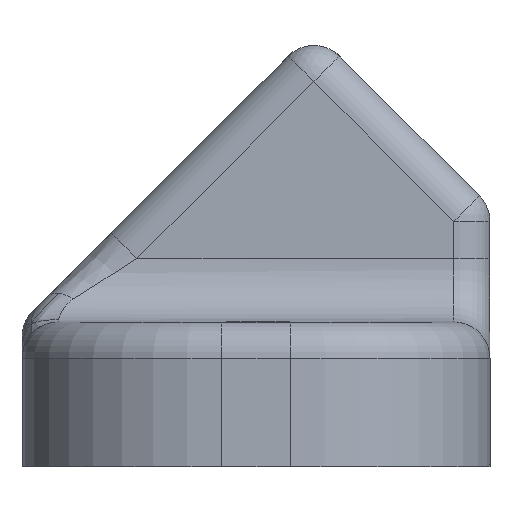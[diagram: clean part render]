
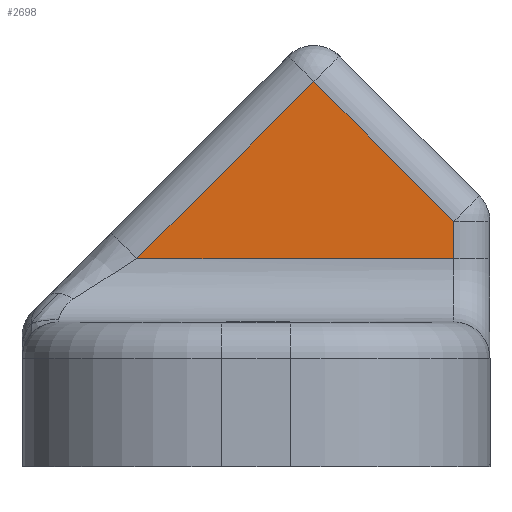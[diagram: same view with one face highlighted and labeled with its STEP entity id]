
A CAD part, front view. The second image highlights one B-rep face of the part: STEP entity #2698.
In plain terms, the highlighted planar face has unit normal (0, -1, 0).
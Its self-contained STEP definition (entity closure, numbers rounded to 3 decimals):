
#177=LINE('',#5530,#401);
#181=LINE('',#5749,#405);
#188=LINE('',#5802,#412);
#192=LINE('',#5812,#416);
#401=VECTOR('',#3364,10.);
#405=VECTOR('',#3380,10.);
#412=VECTOR('',#3423,10.);
#416=VECTOR('',#3435,10.);
#576=PLANE('',#2940);
#690=FACE_OUTER_BOUND('',#850,.T.);
#850=EDGE_LOOP('',(#2166,#2167,#2168,#2169));
#1227=VERTEX_POINT('',#5527);
#1228=VERTEX_POINT('',#5529);
#1232=VERTEX_POINT('',#5747);
#1239=VERTEX_POINT('',#5798);
#1524=EDGE_CURVE('',#1227,#1228,#177,.T.);
#1533=EDGE_CURVE('',#1232,#1227,#181,.T.);
#1551=EDGE_CURVE('',#1228,#1239,#188,.T.);
#1557=EDGE_CURVE('',#1239,#1232,#192,.T.);
#2166=ORIENTED_EDGE('',*,*,#1551,.F.);
#2167=ORIENTED_EDGE('',*,*,#1524,.F.);
#2168=ORIENTED_EDGE('',*,*,#1533,.F.);
#2169=ORIENTED_EDGE('',*,*,#1557,.F.);
#2698=ADVANCED_FACE('',(#690),#576,.T.);
#2940=AXIS2_PLACEMENT_3D('',#5851,#3490,#3491);
#3364=DIRECTION('',(-1.,0.,0.));
#3380=DIRECTION('',(0.,0.,-1.));
#3423=DIRECTION('',(0.707,0.,0.707));
#3435=DIRECTION('',(0.707,0.,-0.707));
#3490=DIRECTION('center_axis',(0.,-1.,0.));
#3491=DIRECTION('ref_axis',(0.,0.,-1.));
#5527=CARTESIAN_POINT('',(14.784,-10.,11.458));
#5529=CARTESIAN_POINT('',(-2.684,-10.,11.458));
#5530=CARTESIAN_POINT('',(10.335,-10.,11.458));
#5747=CARTESIAN_POINT('',(14.784,-10.,13.501));
#5749=CARTESIAN_POINT('',(14.784,-10.,13.175));
#5798=CARTESIAN_POINT('',(7.071,-10.,21.213));
#5802=CARTESIAN_POINT('',(-3.358,-10.,10.784));
#5812=CARTESIAN_POINT('',(7.866,-10.,20.419));
#5851=CARTESIAN_POINT('Origin',(3.886,-10.,12.021));
